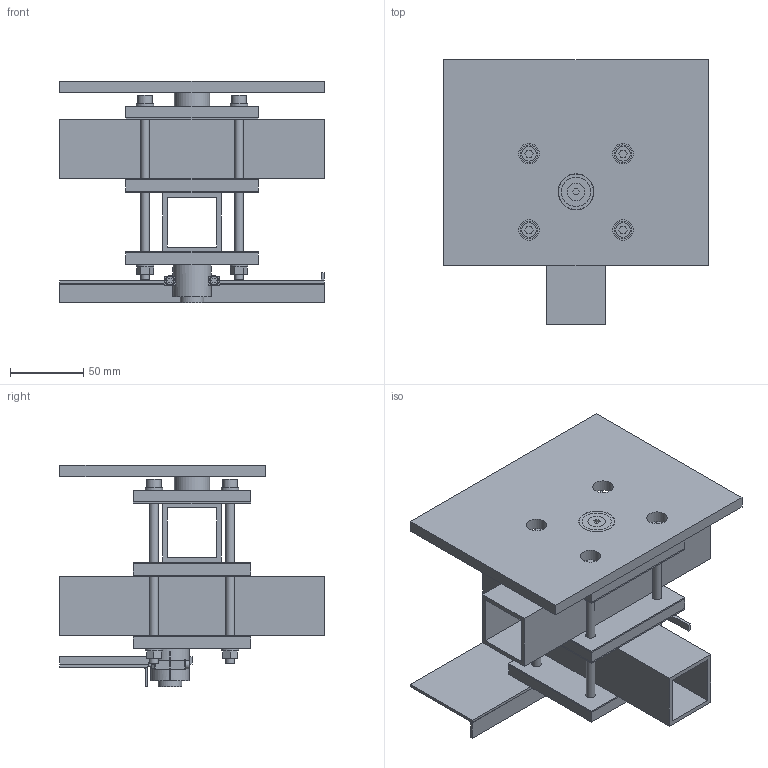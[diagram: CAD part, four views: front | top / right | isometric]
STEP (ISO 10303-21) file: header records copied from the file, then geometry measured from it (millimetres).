
FILE_DESCRIPTION(('FreeCAD Model'),'2;1');
FILE_NAME('Open CASCADE Shape Model','2026-10-29T17:57:09',('FreeCAD'),( 'FreeCAD'),'Open CASCADE STEP processor 7.8','FreeCAD','Unknown');
FILE_SCHEMA(('AUTOMOTIVE_DESIGN { 1 0 10303 214 1 1 1 1 }'));
Length unit declared in the file: millimetre
Products named in the file (1): Open CASCADE STEP translator 7.8 1
Bounding box: 180 x 180 x 151 mm (x, y, z)
Volume: 614139.6 mm3; surface area: 333978.3 mm2
Topology: 45 solids, 45 shells, 381 faces, 812 edges, 541 vertices
Faces by surface type: plane 284, cylinder 95, cone 2
Full cylindrical faces by diameter (mm): 3 x4, 3.2 x4, 3.4 x4, 5.5 x2, 6 x10, 6.4 x8, 6.6 x29, 7 x4, 8 x2, 10 x5, 12 x8, 14 x4, 16 x3, 16.6 x2, 20 x1, 20.5 x1, 24 x2, 24.5 x1, 26 x1
Entity records: 10409 total; most frequent: DIRECTION 1785, CARTESIAN_POINT 1735, ORIENTED_EDGE 1624, EDGE_CURVE 812, LINE 603, VECTOR 603, AXIS2_PLACEMENT_3D 591, VERTEX_POINT 541
